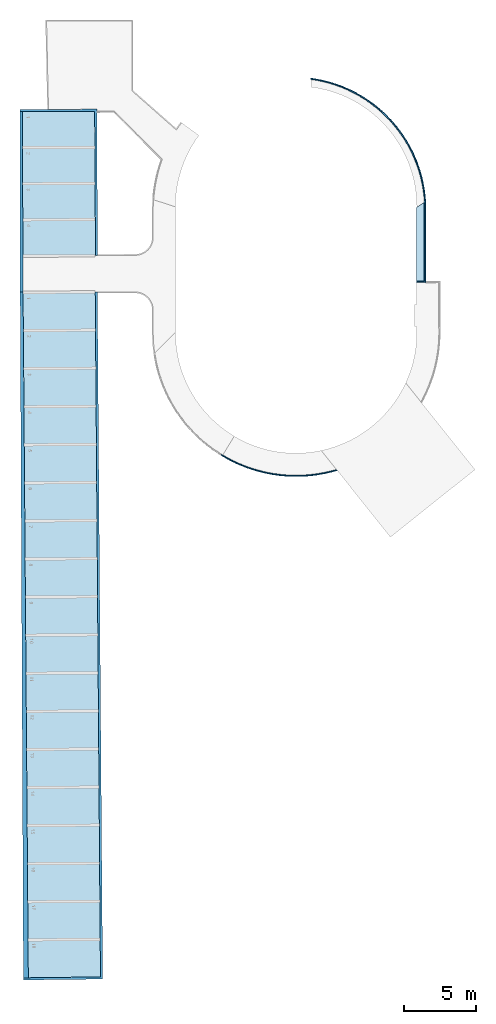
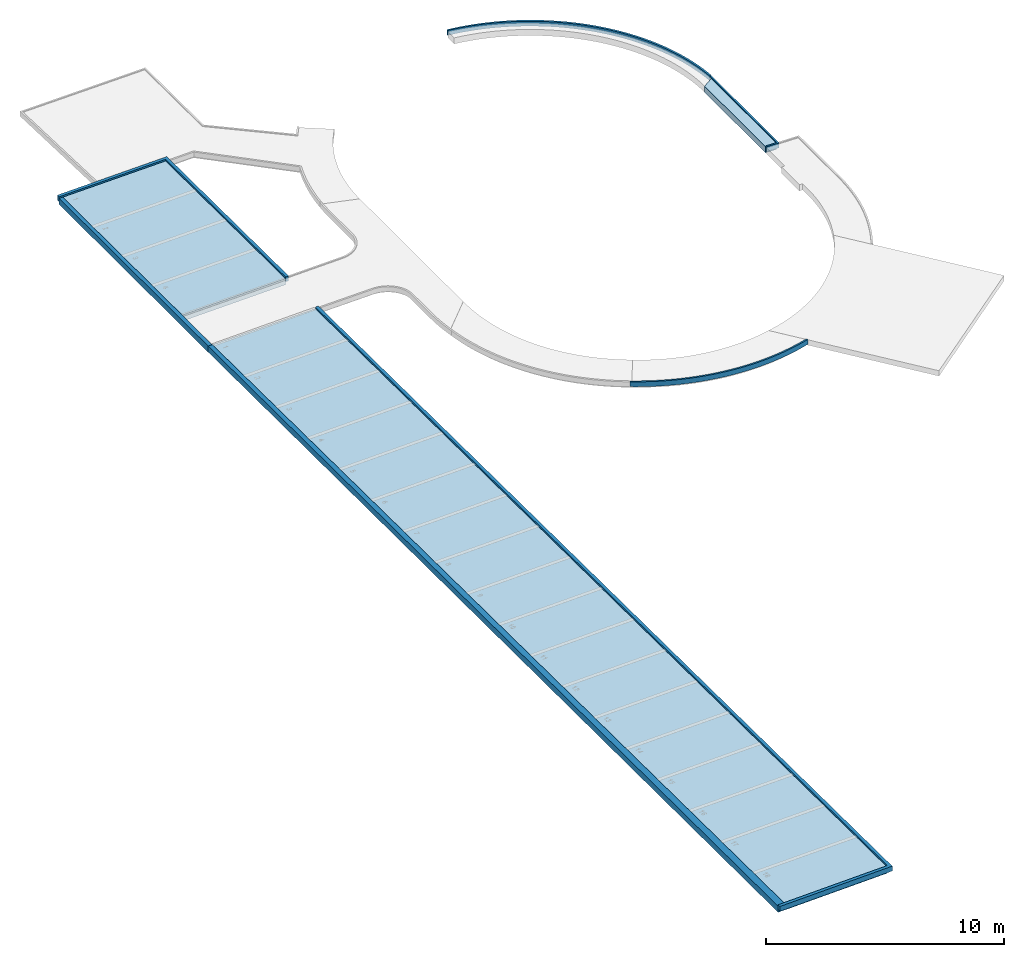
# One storey, part 1 of 8: 8 slabs, 2 discrete accessories.
"""IFC4 building model written with IfcOpenShell, lengths in millimetres."""

import ifcopenshell
import ifcopenshell.guid

model = None  # the IFC model being written
_history = None  # IfcOwnerHistory: only IFC2X3 demands one
_inside = {}  # id of a spatial element -> (the spatial element, [elements in it])
_under = {}  # id of a project, library or spatial element -> (it, [spatial elements below it])
_declared = {}  # id of a project -> (the project, [libraries it declares])
_typed = {}  # id of a type object -> (the type object, [elements of that type])
_made_of = {}  # id of a material, layer set ... -> (it, [elements and type objects made of it])


def new_model(schema):
    """Start an empty IFC model of exactly this schema.

    Asked for "IFC4X3", IfcOpenShell would pick the latest addendum, in which some entities
    have other attributes; the version numbers below select the first issue.
    IFC2X3 requires an IfcOwnerHistory on every rooted entity: one is made here for all.
    """
    global model, _history
    if schema == "IFC4X3":
        model = ifcopenshell.file(schema_version=(4, 3, 0, 0))
    else:
        model = ifcopenshell.file(schema=schema)
    _inside.clear()
    _under.clear()
    _declared.clear()
    _typed.clear()
    _made_of.clear()
    _history = None
    if model.schema == "IFC2X3":
        org = make("IfcOrganization", Name="unknown")
        user = make(
            "IfcPersonAndOrganization",
            ThePerson=make("IfcPerson", FamilyName="unknown"),
            TheOrganization=org,
        )
        app = make(
            "IfcApplication",
            ApplicationDeveloper=org,
            Version="unknown",
            ApplicationFullName="unknown",
            ApplicationIdentifier="unknown",
        )
        _history = make(
            "IfcOwnerHistory",
            OwningUser=user,
            OwningApplication=app,
            ChangeAction="ADDED",
            CreationDate=0,
        )
    return model


def make(cls, **values):
    """One entity of the class cls with the attributes given. An attribute that is None is left unset."""
    return model.create_entity(
        cls, **{name: value for name, value in values.items() if value is not None}
    )


def entity(cls, *values):
    """Any entity or typed value of the class cls, its attributes in the order of the schema. None: left unset."""
    e = model.create_entity(cls)
    for i, value in enumerate(values):
        if value is not None:
            e[i] = value
    return e


def rooted(cls, **values):
    """An entity with a GlobalId (a new one), such as an element, a storey or a relation."""
    return make(cls, GlobalId=ifcopenshell.guid.new(), OwnerHistory=_history, **values)


def si_unit(unit_type, name, prefix=None):
    """IfcSIUnit, for example si_unit("LENGTHUNIT", "METRE", prefix="MILLI")."""
    return make("IfcSIUnit", UnitType=unit_type, Prefix=prefix, Name=name)


def converted_unit(unit_type, name, factor, base, dimensions=None, offset=None):
    """IfcConversionBasedUnit, such as the inch: factor (a typed value) times the base unit."""
    return make(
        "IfcConversionBasedUnit"
        if offset is None
        else "IfcConversionBasedUnitWithOffset",
        ConversionOffset=offset,
        Dimensions=None
        if dimensions is None
        else entity("IfcDimensionalExponents", *dimensions),
        UnitType=unit_type,
        Name=name,
        ConversionFactor=make(
            "IfcMeasureWithUnit", ValueComponent=factor, UnitComponent=base
        ),
    )


def derived_unit(unit_type, elements):
    """IfcDerivedUnit: a product of units, each with its exponent."""
    return make(
        "IfcDerivedUnit",
        Elements=[
            make("IfcDerivedUnitElement", Unit=unit, Exponent=power)
            for unit, power in elements
        ],
        UnitType=unit_type,
    )


def assignment(units):
    """IfcUnitAssignment: the units of a project."""
    return None if units is None else make("IfcUnitAssignment", Units=units)


def point(xyz):
    """IfcCartesianPoint."""
    return None if xyz is None else make("IfcCartesianPoint", Coordinates=xyz)


def direction(xyz):
    """IfcDirection."""
    return None if xyz is None else make("IfcDirection", DirectionRatios=xyz)


def frame(location, z_axis=None, x_axis=None):
    """IfcAxis2Placement3D, a coordinate frame: its origin and axes. An axis left out is left unset."""
    return make(
        "IfcAxis2Placement3D",
        Location=point(location),
        Axis=direction(z_axis),
        RefDirection=direction(x_axis),
    )


def origin_with_axes():
    """The frame at (0, 0, 0) with the z axis (0, 0, 1) and the x axis (1, 0, 0) written out."""
    return frame((0.0, 0.0, 0.0), z_axis=(0.0, 0.0, 1.0), x_axis=(1.0, 0.0, 0.0))


def place(relative_to, where):
    """IfcLocalPlacement: puts the frame where relative to a parent placement (None: the world)."""
    return make(
        "IfcLocalPlacement", PlacementRelTo=relative_to, RelativePlacement=where
    )


def context(
    kind, dimensions, precision=None, world=None, true_north=None, identifier=None
):
    """IfcGeometricRepresentationContext, for example the 3D "Model" context."""
    return make(
        "IfcGeometricRepresentationContext",
        ContextIdentifier=identifier,
        ContextType=kind,
        CoordinateSpaceDimension=dimensions,
        Precision=precision,
        WorldCoordinateSystem=world,
        TrueNorth=true_north,
    )


def subcontext(parent, identifier, kind, view, scale=None):
    """IfcGeometricRepresentationSubContext, for example "Body" below "Model"."""
    return make(
        "IfcGeometricRepresentationSubContext",
        ContextIdentifier=identifier,
        ContextType=kind,
        ParentContext=parent,
        TargetScale=scale,
        TargetView=view,
    )


def project(units=None, contexts=None):
    """IfcProject with its units and contexts."""
    return rooted(
        "IfcProject",
        Name="project",
        RepresentationContexts=contexts,
        UnitsInContext=assignment(units),
    )


def spatial(cls, under=None, at=None, **own):
    """A site, building, storey or space (cls), placed at a placement, below another one or the project."""
    s = rooted(cls, ObjectPlacement=at, **own)
    if under is not None:
        _under.setdefault(under.id(), (under, []))[1].append(s)
    return s


def point_list(points):
    """IfcCartesianPointList2D or 3D."""
    cls = (
        "IfcCartesianPointList2D" if len(points[0]) == 2 else "IfcCartesianPointList3D"
    )
    return make(cls, CoordList=points)


def line(*indices):
    """IfcLineIndex: a straight run through numbered points of an indexed curve."""
    return model.create_entity("IfcLineIndex", indices)


def arc(*indices):
    """IfcArcIndex: an arc through three numbered points of an indexed curve."""
    return model.create_entity("IfcArcIndex", indices)


def indexed_curve(points, segments=None, self_intersect=None):
    """IfcIndexedPolyCurve: lines and arcs through numbered points (the first is 1)."""
    return make(
        "IfcIndexedPolyCurve",
        Points=point_list(points),
        Segments=segments,
        SelfIntersect=self_intersect,
    )


def outline(outer, holes=None, kind="AREA"):
    """IfcArbitraryClosedProfileDef: a profile drawn as a closed curve; with holes, ...WithVoids."""
    if holes is None:
        return make("IfcArbitraryClosedProfileDef", ProfileType=kind, OuterCurve=outer)
    return make(
        "IfcArbitraryProfileDefWithVoids",
        ProfileType=kind,
        OuterCurve=outer,
        InnerCurves=holes,
    )


def extrude(swept, where, along, depth):
    """IfcExtrudedAreaSolid: the profile swept, set in the frame where, extruded along a direction by depth."""
    return make(
        "IfcExtrudedAreaSolid",
        SweptArea=swept,
        Position=where,
        ExtrudedDirection=direction(along),
        Depth=depth,
    )


def polygons(points, faces, closed=None, point_numbers=None):
    """IfcPolygonalFaceSet: a face is its outer loop, then its inner loops; points numbered from 1."""
    made = []
    for loops in faces:
        if len(loops) == 1:
            made.append(make("IfcIndexedPolygonalFace", CoordIndex=loops[0]))
        else:
            made.append(
                make(
                    "IfcIndexedPolygonalFaceWithVoids",
                    CoordIndex=loops[0],
                    InnerCoordIndices=loops[1:],
                )
            )
    return make(
        "IfcPolygonalFaceSet",
        Coordinates=point_list(points),
        Closed=closed,
        Faces=made,
        PnIndex=point_numbers,
    )


def shape(context_of_items, identifier, shape_type, items):
    """IfcShapeRepresentation: the items that make up one representation, for example the "Body"."""
    return make(
        "IfcShapeRepresentation",
        ContextOfItems=context_of_items,
        RepresentationIdentifier=identifier,
        RepresentationType=shape_type,
        Items=items,
    )


def material(Name=None, Category=None):
    """IfcMaterial."""
    return make("IfcMaterial", Name=Name, Category=Category)


def layer(
    of_material, thickness, ventilated=None, Name=None, Category=None, Priority=None
):
    """IfcMaterialLayer: one layer of a wall or slab, of a material (None: an air gap)."""
    return make(
        "IfcMaterialLayer",
        Material=of_material,
        LayerThickness=thickness,
        IsVentilated=ventilated,
        Name=Name,
        Category=Category,
        Priority=Priority,
    )


def layer_set(layers, Name=None):
    """IfcMaterialLayerSet."""
    return make("IfcMaterialLayerSet", MaterialLayers=layers, LayerSetName=Name)


def layer_usage(for_layer_set, set_direction, sense, offset, extent=None):
    """IfcMaterialLayerSetUsage: how a layer set lies in its element."""
    return make(
        "IfcMaterialLayerSetUsage",
        ForLayerSet=for_layer_set,
        LayerSetDirection=set_direction,
        DirectionSense=sense,
        OffsetFromReferenceLine=offset,
        ReferenceExtent=extent,
    )


def constituent(of_material, Name=None, Category=None, fraction=None):
    """IfcMaterialConstituent: one of the materials an element consists of."""
    return make(
        "IfcMaterialConstituent",
        Name=Name,
        Material=of_material,
        Fraction=fraction,
        Category=Category,
    )


def constituent_set(constituents=None, Name=None):
    """IfcMaterialConstituentSet."""
    return make(
        "IfcMaterialConstituentSet", Name=Name, MaterialConstituents=constituents
    )


def made_of(thing, what):
    """Note that an element or type object is made of a material, layer set ...; save() writes the relation."""
    if what is not None:
        _made_of.setdefault(what.id(), (what, []))[1].append(thing)
    return thing


def type_object(cls, material=None, **own):
    """A type object (cls), such as IfcWallType, which elements share."""
    return made_of(rooted(cls, **own), material)


def element(
    cls,
    number,
    at=None,
    inside=None,
    cuts=None,
    type_object=None,
    material=None,
    context=None,
    identifier="Body",
    shape_type=None,
    held_by="IfcProductDefinitionShape",
    body=None,
    shapes=None,
    **own,
):
    """One element of the class cls, such as IfcWall. Its Tag is "e" and its number.

    at: its placement. inside: the storey or other place that contains it. cuts: it is an
    opening in that element (IfcRelVoidsElement). A single representation is given by context,
    identifier, shape_type and body (its items); several are given by shapes. held_by: the class
    of the entity that holds the representations. save() writes the other relations.
    """
    e = rooted(cls, Tag="e%d" % number, ObjectPlacement=at, **own)
    if body is not None:
        shapes = [shape(context, identifier, shape_type, body)]
    if shapes is not None:
        e.Representation = make(held_by, Representations=shapes)
    if inside is not None:
        _inside.setdefault(inside.id(), (inside, []))[1].append(e)
    if cuts is not None:
        rooted(
            "IfcRelVoidsElement", RelatingBuildingElement=cuts, RelatedOpeningElement=e
        )
    if type_object is not None:
        _typed.setdefault(type_object.id(), (type_object, []))[1].append(e)
    return made_of(e, material)


def aggregate(whole, parts):
    """IfcRelAggregates: a whole, such as a stair, and the parts it consists of."""
    return rooted("IfcRelAggregates", RelatingObject=whole, RelatedObjects=parts)


def save(model, path):
    """Write the relations noted so far, then the file.

    IfcRelAggregates (storeys below a building ...), IfcRelContainedInSpatialStructure (elements
    in a storey), IfcRelDefinesByType, IfcRelAssociatesMaterial and IfcRelDeclares: one each for
    every whole, place, type object, material and project.
    """
    for whole, parts in _under.values():
        aggregate(whole, parts)
    for where, things in _inside.values():
        rooted(
            "IfcRelContainedInSpatialStructure",
            RelatedElements=things,
            RelatingStructure=where,
        )
    for kind, things in _typed.values():
        rooted("IfcRelDefinesByType", RelatedObjects=things, RelatingType=kind)
    for what, things in _made_of.values():
        rooted("IfcRelAssociatesMaterial", RelatedObjects=things, RelatingMaterial=what)
    for by, libraries in _declared.values():
        rooted("IfcRelDeclares", RelatingContext=by, RelatedDefinitions=libraries)
    model.write(path)


model = new_model("IFC4")

# Units and contexts
model_context = context("Model", 3, precision=0.01, world=origin_with_axes(), true_north=direction((0.0, 1.0)))
body_context = subcontext(model_context, "Body", "Model", "MODEL_VIEW")
ifc_project = project(units=[si_unit("LENGTHUNIT", "METRE", prefix="MILLI"), si_unit("AREAUNIT", "SQUARE_METRE"), si_unit("VOLUMEUNIT", "CUBIC_METRE"), converted_unit("PLANEANGLEUNIT", "DEGREE", entity("IfcPlaneAngleMeasure", 0.0174532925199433), si_unit("PLANEANGLEUNIT", "RADIAN"), dimensions=[0, 0, 0, 0, 0, 0, 0]), converted_unit("TIMEUNIT", "Year", entity("IfcTimeMeasure", 31557600.0), si_unit("TIMEUNIT", "SECOND"), dimensions=[0, 0, 1, 0, 0, 0, 0]), si_unit("MASSUNIT", "GRAM", prefix="KILO"), si_unit("THERMODYNAMICTEMPERATUREUNIT", "DEGREE_CELSIUS"), si_unit("LUMINOUSINTENSITYUNIT", "LUMEN"), si_unit("ENERGYUNIT", "JOULE", prefix="MEGA"), derived_unit("THERMALCONDUCTANCEUNIT", [(si_unit("POWERUNIT", "WATT"), 1), (si_unit("LENGTHUNIT", "METRE"), -1), (si_unit("THERMODYNAMICTEMPERATUREUNIT", "KELVIN"), -1)]), derived_unit("SPECIFICHEATCAPACITYUNIT", [(si_unit("ENERGYUNIT", "JOULE"), 1), (si_unit("MASSUNIT", "GRAM", prefix="KILO"), -1), (si_unit("THERMODYNAMICTEMPERATUREUNIT", "KELVIN"), -1)]), derived_unit("MASSDENSITYUNIT", [(si_unit("MASSUNIT", "GRAM", prefix="KILO"), 1), (si_unit("VOLUMEUNIT", "CUBIC_METRE"), -1)])], contexts=[model_context])

# Site, building, storey
site_placement = place(None, origin_with_axes())
site = spatial("IfcSite", under=ifc_project, at=site_placement, Name="Exteriér", CompositionType="ELEMENT")
building_placement = place(site_placement, origin_with_axes())
building = spatial("IfcBuilding", under=site, at=building_placement, Name="Univerzitní lezecké centrum", CompositionType="ELEMENT")
storey_placement = place(building_placement, origin_with_axes())
storey = spatial("IfcBuildingStorey", under=building, at=storey_placement, Name="1.NP", CompositionType="ELEMENT", Elevation=0.0)

# Slabs
ifc_material_1 = material(Name="Betonová dlažba zámková")
ifc_layer_1 = layer(ifc_material_1, 60.0, ventilated="UNKNOWN", Name="Betonová dlažba zámková")
ifc_material_2 = material(Name="Štěrk - frakce 4/8")
ifc_layer_2 = layer(ifc_material_2, 40.0, ventilated="UNKNOWN", Name="Štěrk - frakce 4/8")
ifc_material_3 = material(Name="Štěrk - frakce 8/16")
ifc_layer_3 = layer(ifc_material_3, 160.0, ventilated="UNKNOWN", Name="Štěrk - frakce 8/16")
ifc_material_4 = material(Name="Geotextilie 300 g/m2")
ifc_layer_4 = layer(ifc_material_4, 2.0, ventilated="UNKNOWN", Name="Geotextilie 300 g/m2")
ifc_material_5 = material(Name="Zemina - hutněná")
ifc_layer_5 = layer(ifc_material_5, 50.0, ventilated="UNKNOWN", Name="Zemina - hutněná")
ifc_layer_set_1 = layer_set([ifc_layer_1, ifc_layer_2, ifc_layer_3, ifc_layer_4, ifc_layer_5], Name="!Okapový chodník/Terasa/chodník")
ifc_layer_usage_1 = layer_usage(ifc_layer_set_1, "AXIS3", "NEGATIVE", 312.0)
slab_type_1 = type_object("IfcSlabType", Name="!Okapový chodník/Terasa/chodník 312", PredefinedType="ROOF")
slab_1_placement = place(storey_placement, frame((-11511.75968262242, 14990.53436382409, -364.9654104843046), z_axis=(0.0, 0.0, 1.0), x_axis=(0.005896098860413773, -0.9999826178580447, 0.0)))
element("IfcSlab", 1, at=slab_1_placement, inside=storey, type_object=slab_type_1, material=ifc_layer_usage_1, PredefinedType="ROOF", context=body_context, shape_type="SweptSolid", body=[
    extrude(outline(indexed_curve([(-30.00013036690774, 0.0), (-44.74144526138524, -5001.318691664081), (9955.238780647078, -5030.805279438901), (9960.478773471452, -0.003623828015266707)], segments=[line(1, 2, 3, 4, 1)])), frame((0.0, 0.0, 0.0), z_axis=(0.0, -0.01999600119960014, 0.999800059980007), x_axis=(1.0, 0.0, 0.0)), (0.0, 0.01999600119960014, 0.999800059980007), 312.0623937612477),
])
ifc_layer_usage_2 = layer_usage(ifc_layer_set_1, "AXIS3", "NEGATIVE", 312.0)
slab_2_placement = place(storey_placement, frame((-11470.02975589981, 2464.551311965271, -369.504812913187), z_axis=(0.0, 0.0, 1.0), x_axis=(0.0106234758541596, -0.9999435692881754, 0.0)))
element("IfcSlab", 2, at=slab_2_placement, inside=storey, type_object=slab_type_1, material=ifc_layer_usage_2, PredefinedType="ROOF", context=body_context, shape_type="SweptSolid", body=[
    extrude(outline(indexed_curve([(-40.25888514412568, 0.0), (-93.34288493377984, -4998.871336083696), (47430.61093537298, -5141.307582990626), (47420.91792503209, -140.3170803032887)], segments=[line(1, 2, 3, 4, 1)])), frame((0.0, 0.0, 0.0), z_axis=(0.0, -0.01999600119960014, 0.999800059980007), x_axis=(1.0, 0.0, 0.0)), (0.0, 0.01999600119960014, 0.999800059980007), 312.0623937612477),
])
ifc_layer_usage_3 = layer_usage(ifc_layer_set_1, "AXIS3", "NEGATIVE", 312.0)
slab_3_placement = place(storey_placement, frame((10849.85164885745, 8399.999999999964, -312.8632590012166), z_axis=(0.0, 0.0, 1.0), x_axis=(0.0, -1.0, 0.0)))
element("IfcSlab", 3, at=slab_3_placement, inside=storey, type_object=slab_type_1, material=ifc_layer_usage_3, PredefinedType="ROOF", context=body_context, shape_type="SweptSolid", body=[
    extrude(outline(indexed_curve([(5158.562780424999, -40.05126985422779), (5158.562780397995, 493.5576333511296), (-331.43149381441, 493.557633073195), (26.8950398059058, -40.05127011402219)], segments=[line(1, 2, 3, 4, 1)])), frame((0.0, 0.0, 0.0), z_axis=(0.0, 0.01999600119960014, 0.999800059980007), x_axis=(1.0, 0.0, 0.0)), (0.0, -0.01999600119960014, 0.999800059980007), 312.0623937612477),
])
ifc_material_6 = material(Name="Beton prostý")
ifc_layer_6 = layer(ifc_material_6, 250.0, ventilated="UNKNOWN", Name="Beton prostý")
ifc_layer_set_2 = layer_set([ifc_layer_6], Name="Beton prostý  250")
ifc_layer_usage_4 = layer_usage(ifc_layer_set_2, "AXIS3", "NEGATIVE", 250.0)
slab_type_2 = type_object("IfcSlabType", Name="Beton prostý  250", PredefinedType="ROOF")
slab_4_placement = place(storey_placement, frame((-11362.12332257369, 15018.63109123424, -220.0), z_axis=(0.0, 0.0, 1.0), x_axis=(0.005896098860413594, -0.9999826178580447, 0.0)))
element("IfcSlab", 4, at=slab_4_placement, inside=storey, type_object=slab_type_2, material=ifc_layer_usage_4, PredefinedType="ROOF", context=body_context, shape_type="SweptSolid", body=[
    extrude(outline(indexed_curve([(-168.0522615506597, -5321.255543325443), (-18.05349284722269, -5321.697177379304), (-2.823493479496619, -147.4014223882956), (9987.692741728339, -149.8330008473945), (9987.402319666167, -1.972781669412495e-05), (-152.8054700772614, 8.938140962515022e-07), (-152.8222617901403, -146.9597883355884), (-152.8234425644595, -147.3648648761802)], segments=[line(1, 2, 3, 4, 5, 6, 7, 8, 1)])), frame((0.0, 0.0, 0.0), z_axis=(0.0, -0.01999600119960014, 0.999800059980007), x_axis=(1.0, 0.0, 0.0)), (0.0, 0.01999600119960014, 0.999800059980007), 250.0499950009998),
])
ifc_layer_usage_5 = layer_usage(ifc_layer_set_2, "AXIS3", "NEGATIVE", 250.0)
slab_5_placement = place(storey_placement, frame((-11320.02975589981, 2464.551311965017, -220.0), z_axis=(0.0, 0.0, 1.0), x_axis=(0.0106234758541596, -0.9999435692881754, 0.0)))
element("IfcSlab", 5, at=slab_5_placement, inside=storey, type_object=slab_type_2, material=ifc_layer_usage_5, PredefinedType="ROOF", context=body_context, shape_type="SweptSolid", body=[
    extrude(outline(indexed_curve([(47421.13258603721, -292.2750489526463), (47428.67445284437, -5631.142996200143), (47578.67430311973, -5630.931016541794), (47570.91777530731, -140.1051006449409), (47420.91792503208, -140.3170803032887), (-40.25888514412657, 0.0), (-41.85199339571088, -150.0215357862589)], segments=[line(1, 2, 3, 4, 5, 6, 7, 1)])), frame((0.0, 0.0, 0.0), z_axis=(0.0, -0.01999600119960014, 0.999800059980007), x_axis=(1.0, 0.0, 0.0)), (0.0, 0.01999600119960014, 0.999800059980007), 250.0499950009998),
])
slab_6_placement = place(storey_placement, frame((10849.85164885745, 8399.999999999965, -203.5020728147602), z_axis=(0.0, 0.0, 1.0), x_axis=(0.0, -1.0, 0.0)))
element("IfcSlab", 6, at=slab_6_placement, inside=storey, type_object=slab_type_2, material=ifc_material_6, PredefinedType="ROOF", context=body_context, shape_type="Tessellation", body=[
    polygons([(-481.533185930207, 573.4589511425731, 238.5808159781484), (-423.8220826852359, 487.5345262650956, 240.2993044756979), (-331.43149381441, 493.4589511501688, 240.1808159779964), (5158.562780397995, 493.4589514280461, 240.1808159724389), (5159.254228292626, -40.14692612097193, 250.8529335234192), (5239.254161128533, -40.04326199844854, 250.8508602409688), (5238.459183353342, 573.4589514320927, 238.580815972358), (-481.5331863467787, 573.458951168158, -11.46917902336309), (-423.8220824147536, 487.5345262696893, -9.75069052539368), (-331.4314939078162, 493.4589512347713, -9.869179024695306), (5158.55630283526, 493.4589512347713, -9.869179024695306), (5159.247750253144, -40.14693490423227, 0.8029386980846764), (5239.247683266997, -40.04327056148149, 0.8008654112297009), (5238.452705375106, 573.458951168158, -11.46917902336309)], [[[1, 2, 3, 4, 5, 6, 7]], [[2, 1, 8, 9]], [[3, 2, 9, 10]], [[4, 3, 10, 11]], [[5, 4, 11, 12]], [[6, 5, 12, 13]], [[7, 6, 13, 14]], [[1, 7, 14, 8]], [[9, 8, 14, 13, 12, 11, 10]]], closed=True),
])
ifc_layer_usage_6 = layer_usage(ifc_layer_set_2, "AXIS3", "NEGATIVE", 250.0)
slab_7_placement = place(storey_placement, frame((-1839.555747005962, -7492.789677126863, -249.9999999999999), z_axis=(0.0, 0.0, 1.0), x_axis=(0.986899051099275, -0.1613389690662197, 0.0)))
element("IfcSlab", 7, at=slab_7_placement, inside=storey, type_object=slab_type_2, material=ifc_layer_usage_6, PredefinedType="ROOF", context=body_context, shape_type="SweptSolid", body=[
    extrude(outline(indexed_curve([(-677.0069052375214, -1458.162791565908), (3401.965019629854, -2183.955456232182), (7424.198367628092, -1190.765720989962), (7360.082593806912, -1132.875549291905), (3423.071247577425, -2103.186708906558), (-572.7105919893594, -1413.774221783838), (-646.8577859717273, -1383.737683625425)], segments=[arc(1, 2, 3), line(3, 4), arc(4, 5, 6), line(6, 7, 1)])), origin_with_axes(), (0.0, 0.0, 1.0), 250.0),
])
ifc_layer_usage_7 = layer_usage(ifc_layer_set_2, "AXIS3", "NEGATIVE", 250.0)
slab_8_placement = place(storey_placement, frame((3468.144331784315, 16738.05013248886, -200.0), z_axis=(0.0, 0.0, 1.0), x_axis=(0.6628629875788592, -0.7487407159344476, 0.0)))
element("IfcSlab", 8, at=slab_8_placement, inside=storey, type_object=slab_type_2, material=ifc_layer_usage_7, PredefinedType="ROOF", context=body_context, shape_type="SweptSolid", body=[
    extrude(outline(indexed_curve([(-436.3498937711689, 386.3022112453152), (-375.9064547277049, 332.7914060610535), (-363.3653798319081, 343.5293084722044), (5335.637348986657, 2535.541329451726), (11141.93393436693, 645.9729221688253), (11155.67940259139, 748.5625918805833), (5295.145207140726, 2632.003969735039)], segments=[line(1, 2, 3), arc(3, 4, 5), line(5, 6), arc(6, 7, 1)])), origin_with_axes(), (0.0, 0.0, 1.0), 250.0),
])

# Discrete accessories
ifc_constituent_1 = constituent(ifc_material_5, Name="Zemina - hutněná")
ifc_constituent_2 = constituent(ifc_material_4, Name="Geotextilie 300 g/m2")
ifc_constituent_3 = constituent(ifc_material_3, Name="Štěrk - frakce 8/16")
ifc_constituent_4 = constituent(ifc_material_2, Name="Štěrk - frakce 4/8")
ifc_constituent_5 = constituent(ifc_material_1, Name="Betonová dlažba zámková")
ifc_constituent_set_1 = constituent_set(constituents=[ifc_constituent_1, ifc_constituent_2, ifc_constituent_3, ifc_constituent_4, ifc_constituent_5], Name="!Okapový chodník/Terasa/chodník")
discrete_accessory_type = type_object("IfcDiscreteAccessoryType", Name="!Okapový chodník/Terasa/chodník 312", PredefinedType="NOTDEFINED")
discrete_accessory_1_placement = place(storey_placement, frame((-16512.09451962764, 14951.25719612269, -465.3229144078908), z_axis=(0.0, 0.0, 1.0), x_axis=(0.002948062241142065, -0.9999956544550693, 0.0)))
element("IfcDiscreteAccessory", 9, at=discrete_accessory_1_placement, inside=storey, type_object=discrete_accessory_type, material=ifc_constituent_set_1, PredefinedType="NOTDEFINED", context=body_context, shape_type="SweptSolid", body=[
    extrude(outline(indexed_curve([(-54.53559005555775, 0.0), (-55.03828349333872, -170.5499207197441), (12446.64230353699, -195.1904056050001), (12446.29574969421, 0.0)], segments=[line(1, 2, 3, 4, 1)])), frame((0.0, 0.0, 0.0), z_axis=(0.0, -0.01999600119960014, 0.999800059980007), x_axis=(1.0, 0.0, 0.0)), (0.0, 0.01999600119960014, 0.999800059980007), 50.00999900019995),
    extrude(outline(indexed_curve([(-54.53559005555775, 0.0), (-55.03828349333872, -170.5499207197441), (12446.64230353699, -195.1904056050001), (12446.29574969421, 0.0)], segments=[line(1, 2, 3, 4, 1)])), frame((0.0, 0.0, 50.00999900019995), z_axis=(0.0, -0.01999600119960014, 0.999800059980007), x_axis=(1.0, 0.0, 0.0)), (0.0, 0.01999600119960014, 0.999800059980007), 2.000399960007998),
    extrude(outline(indexed_curve([(-54.53559005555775, 0.0), (-55.03828349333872, -170.5499207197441), (12446.64230353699, -195.1904056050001), (12446.29574969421, 0.0)], segments=[line(1, 2, 3, 4, 1)])), frame((0.0, 0.0, 52.01039896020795), z_axis=(0.0, -0.01999600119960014, 0.999800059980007), x_axis=(1.0, 0.0, 0.0)), (0.0, 0.01999600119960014, 0.999800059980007), 160.0319968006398),
    extrude(outline(indexed_curve([(-54.53559005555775, 0.0), (-55.03828349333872, -170.5499207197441), (12446.64230353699, -195.1904056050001), (12446.29574969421, 0.0)], segments=[line(1, 2, 3, 4, 1)])), frame((0.0, 0.0, 212.0423957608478), z_axis=(0.0, -0.01999600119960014, 0.999800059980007), x_axis=(1.0, 0.0, 0.0)), (0.0, 0.01999600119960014, 0.999800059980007), 40.00799920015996),
    extrude(outline(indexed_curve([(-54.53559005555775, 0.0), (-55.03828349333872, -170.5499207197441), (12446.64230353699, -195.1904056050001), (12446.29574969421, 0.0)], segments=[line(1, 2, 3, 4, 1)])), frame((0.0, 0.0, 252.0503949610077), z_axis=(0.0, -0.01999600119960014, 0.999800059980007), x_axis=(1.0, 0.0, 0.0)), (0.0, 0.01999600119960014, 0.999800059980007), 60.01199880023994),
])
ifc_constituent_6 = constituent(ifc_material_5, Name="Zemina - hutněná")
ifc_constituent_7 = constituent(ifc_material_4, Name="Geotextilie 300 g/m2")
ifc_constituent_8 = constituent(ifc_material_3, Name="Štěrk - frakce 8/16")
ifc_constituent_9 = constituent(ifc_material_2, Name="Štěrk - frakce 4/8")
ifc_constituent_10 = constituent(ifc_material_1, Name="Betonová dlažba zámková")
ifc_constituent_set_2 = constituent_set(constituents=[ifc_constituent_6, ifc_constituent_7, ifc_constituent_8, ifc_constituent_9, ifc_constituent_10], Name="!Okapový chodník/Terasa/chodník")
discrete_accessory_2_placement = place(storey_placement, frame((-16470.31135407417, 2426.170111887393, -465.3229144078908), z_axis=(0.0, 0.0, 1.0), x_axis=(0.007675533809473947, -0.9999705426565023, 0.0)))
element("IfcDiscreteAccessory", 10, at=discrete_accessory_2_placement, inside=storey, type_object=discrete_accessory_type, material=ifc_constituent_set_2, PredefinedType="NOTDEFINED", context=body_context, shape_type="SweptSolid", body=[
    extrude(outline(indexed_curve([(-78.86966233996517, 0.0), (-79.45820489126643, -199.6761404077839), (47446.2170813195, -339.8134171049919), (47445.55844880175, 0.0)], segments=[line(1, 2, 3, 4, 1)])), frame((0.0, 0.0, 0.0), z_axis=(0.0, -0.01999600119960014, 0.999800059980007), x_axis=(1.0, 0.0, 0.0)), (0.0, 0.01999600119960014, 0.999800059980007), 50.00999900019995),
    extrude(outline(indexed_curve([(-78.86966233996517, 0.0), (-79.45820489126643, -199.6761404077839), (47446.2170813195, -339.8134171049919), (47445.55844880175, 0.0)], segments=[line(1, 2, 3, 4, 1)])), frame((0.0, 0.0, 50.00999900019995), z_axis=(0.0, -0.01999600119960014, 0.999800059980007), x_axis=(1.0, 0.0, 0.0)), (0.0, 0.01999600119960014, 0.999800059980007), 2.000399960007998),
    extrude(outline(indexed_curve([(-78.86966233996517, 0.0), (-79.45820489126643, -199.6761404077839), (47446.2170813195, -339.8134171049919), (47445.55844880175, 0.0)], segments=[line(1, 2, 3, 4, 1)])), frame((0.0, 0.0, 52.01039896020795), z_axis=(0.0, -0.01999600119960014, 0.999800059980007), x_axis=(1.0, 0.0, 0.0)), (0.0, 0.01999600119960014, 0.999800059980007), 160.0319968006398),
    extrude(outline(indexed_curve([(-78.86966233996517, 0.0), (-79.45820489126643, -199.6761404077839), (47446.2170813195, -339.8134171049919), (47445.55844880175, 0.0)], segments=[line(1, 2, 3, 4, 1)])), frame((0.0, 0.0, 212.0423957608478), z_axis=(0.0, -0.01999600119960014, 0.999800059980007), x_axis=(1.0, 0.0, 0.0)), (0.0, 0.01999600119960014, 0.999800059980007), 40.00799920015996),
    extrude(outline(indexed_curve([(-78.86966233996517, 0.0), (-79.45820489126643, -199.6761404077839), (47446.2170813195, -339.8134171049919), (47445.55844880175, 0.0)], segments=[line(1, 2, 3, 4, 1)])), frame((0.0, 0.0, 252.0503949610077), z_axis=(0.0, -0.01999600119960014, 0.999800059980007), x_axis=(1.0, 0.0, 0.0)), (0.0, 0.01999600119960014, 0.999800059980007), 60.01199880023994),
])

save(model, "model.ifc")
